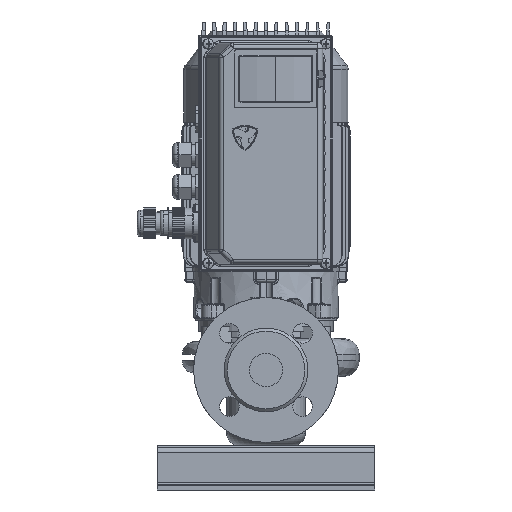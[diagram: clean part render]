
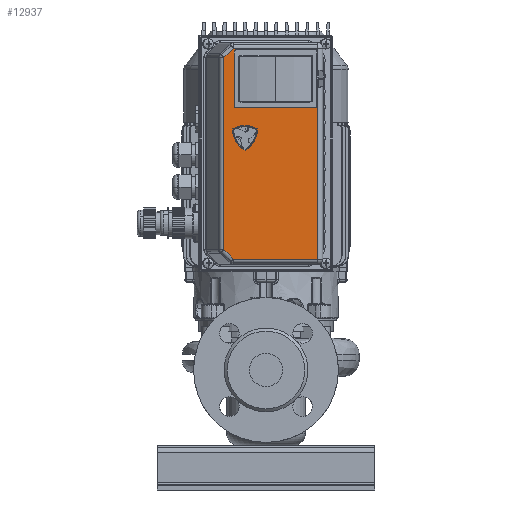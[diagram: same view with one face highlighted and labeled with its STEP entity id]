
A CAD part, front view. The second image highlights one B-rep face of the part: STEP entity #12937.
In plain terms, the highlighted planar face has unit normal (0, -1, 0) as drawn and (0, 0.276, -0.961) by its records, which use the part's own axes.
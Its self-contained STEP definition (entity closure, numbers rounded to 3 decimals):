
#12937=ADVANCED_FACE('',(#25234,#25235),#25236,.F.);
#25234=FACE_BOUND('',#46034,.T.);
#25235=FACE_OUTER_BOUND('',#46035,.T.);
#25236=PLANE('',#46036);
#46034=EDGE_LOOP('',(#72950,#72951,#72952,#72953));
#46035=EDGE_LOOP('',(#72954,#72955,#72956,#72957,#72958,#72959));
#46036=AXIS2_PLACEMENT_3D('',#72960,#72961,#72962);
#72950=ORIENTED_EDGE('',*,*,#101063,.T.);
#72951=ORIENTED_EDGE('',*,*,#101066,.T.);
#72952=ORIENTED_EDGE('',*,*,#101056,.T.);
#72953=ORIENTED_EDGE('',*,*,#101060,.T.);
#72954=ORIENTED_EDGE('',*,*,#100152,.F.);
#72955=ORIENTED_EDGE('',*,*,#101904,.F.);
#72956=ORIENTED_EDGE('',*,*,#101910,.F.);
#72957=ORIENTED_EDGE('',*,*,#100629,.T.);
#72958=ORIENTED_EDGE('',*,*,#101442,.T.);
#72959=ORIENTED_EDGE('',*,*,#101908,.T.);
#72960=CARTESIAN_POINT('',(0.,13.785,32.694));
#72961=DIRECTION('',(0.0,-0.276,0.961));
#72962=DIRECTION('',(-0.0,0.961,0.276));
#100152=EDGE_CURVE('',#124695,#124697,#124698,.T.);
#100629=EDGE_CURVE('',#125512,#125510,#125513,.T.);
#101056=EDGE_CURVE('',#126233,#126234,#126235,.T.);
#101060=EDGE_CURVE('',#126234,#126239,#126240,.T.);
#101063=EDGE_CURVE('',#126239,#126243,#126244,.T.);
#101066=EDGE_CURVE('',#126243,#126233,#126247,.T.);
#101442=EDGE_CURVE('',#125510,#126676,#126678,.T.);
#101904=EDGE_CURVE('',#127198,#124695,#127200,.T.);
#101908=EDGE_CURVE('',#126676,#124697,#127204,.T.);
#101910=EDGE_CURVE('',#125512,#127198,#127206,.T.);
#124695=VERTEX_POINT('',#140972);
#124697=VERTEX_POINT('',#140974);
#124698=LINE('',#140975,#140976);
#125510=VERTEX_POINT('',#141915);
#125512=VERTEX_POINT('',#141917);
#125513=LINE('',#141918,#141919);
#126233=VERTEX_POINT('',#142778);
#126234=VERTEX_POINT('',#142779);
#126235=LINE('',#142780,#142781);
#126239=VERTEX_POINT('',#142787);
#126240=LINE('',#142788,#142789);
#126243=VERTEX_POINT('',#142793);
#126244=LINE('',#142794,#142795);
#126247=LINE('',#142799,#142800);
#126676=VERTEX_POINT('',#143280);
#126678=LINE('',#143282,#143283);
#127198=VERTEX_POINT('',#143901);
#127200=LINE('',#143903,#143904);
#127204=LINE('',#143908,#143909);
#127206=LINE('',#143911,#143912);
#140972=CARTESIAN_POINT('',(-102.0,48.307,42.593));
#140974=CARTESIAN_POINT('',(-102.0,-29.808,20.194));
#140975=CARTESIAN_POINT('',(-102.0,-21.808,22.488));
#140976=VECTOR('',#158362,1.);
#141915=CARTESIAN_POINT('',(102.0,48.307,42.593));
#141917=CARTESIAN_POINT('',(92.929,57.378,45.194));
#141918=CARTESIAN_POINT('',(81.022,69.285,48.608));
#141919=VECTOR('',#159252,1.);
#142778=CARTESIAN_POINT('',(-50.,42.286,40.866));
#142779=CARTESIAN_POINT('',(-95.,42.286,40.866));
#142780=CARTESIAN_POINT('',(-36.25,42.286,40.866));
#142781=VECTOR('',#160040,1.);
#142787=CARTESIAN_POINT('',(-95.,-24.041,21.847));
#142788=CARTESIAN_POINT('',(-95.,11.454,32.025));
#142789=VECTOR('',#160043,1.);
#142793=CARTESIAN_POINT('',(-50.,-24.041,21.847));
#142794=CARTESIAN_POINT('',(-36.25,-24.041,21.847));
#142795=VECTOR('',#160045,1.);
#142799=CARTESIAN_POINT('',(-50.,11.454,32.025));
#142800=VECTOR('',#160047,1.);
#143280=CARTESIAN_POINT('',(102.0,-29.808,20.194));
#143282=CARTESIAN_POINT('',(102.0,-21.808,22.488));
#143283=VECTOR('',#160633,1.0);
#143901=CARTESIAN_POINT('',(-92.929,57.378,45.194));
#143903=CARTESIAN_POINT('',(-81.022,69.285,48.608));
#143904=VECTOR('',#161308,1.);
#143908=CARTESIAN_POINT('',(0.,-29.808,20.194));
#143909=VECTOR('',#161312,1.0);
#143911=CARTESIAN_POINT('',(0.,57.378,45.194));
#143912=VECTOR('',#161313,1.0);
#158362=DIRECTION('',(0.,-0.961,-0.276));
#159252=DIRECTION('',(0.693,-0.693,-0.199));
#160040=DIRECTION('',(-1.0,0.,0.));
#160043=DIRECTION('',(-0.0,-0.961,-0.276));
#160045=DIRECTION('',(1.0,0.,0.));
#160047=DIRECTION('',(-0.0,0.961,0.276));
#160633=DIRECTION('',(0.,-0.961,-0.276));
#161308=DIRECTION('',(-0.693,-0.693,-0.199));
#161312=DIRECTION('',(-1.0,0.0,0.0));
#161313=DIRECTION('',(-1.0,0.0,0.0));
